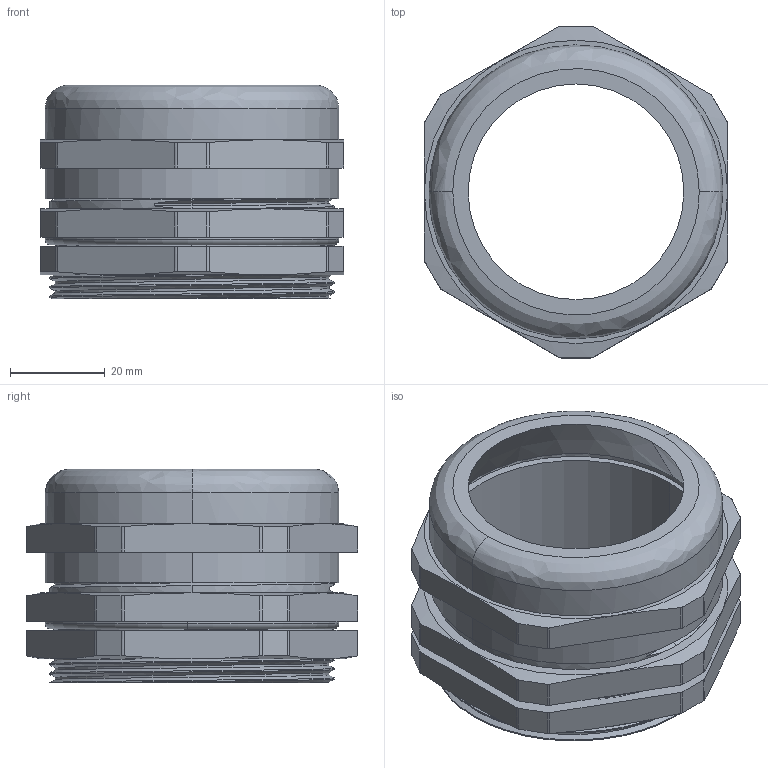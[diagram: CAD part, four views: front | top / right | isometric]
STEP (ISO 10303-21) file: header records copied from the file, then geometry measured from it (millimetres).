
FILE_DESCRIPTION (( 'STEP AP214' ), '1' );
FILE_NAME ('R5BCM60.STEP', '2022-10-11T06:49:50', ( '' ), ( '' ), 'SwSTEP 2.0', 'SolidWorks 2022', '' );
FILE_SCHEMA (( 'AUTOMOTIVE_DESIGN' ));
Length unit declared in the file: millimetre
Products named in the file (5): Корпус_R5BCM60; Уплотнительное кольцо_R5BCM60; Крышка_R5BCM60; Фиксирующая гайка_R5BCM60; R5BCM60
Assembly tree (4 placements, depth 2):
  R5BCM60
    Корпус_R5BCM60
    Уплотнительное кольцо_R5BCM60
    Фиксирующая гайка_R5BCM60
    Крышка_R5BCM60
Bounding box: 64 x 70 x 45.1 mm (x, y, z)
Volume: 34322.1 mm3; surface area: 35481 mm2
Topology: 4 solids, 4 shells, 225 faces, 604 edges, 390 vertices
Faces by surface type: plane 92, cylinder 91, cone 22, bspline 14, torus 6
Entity records: 15677 total; most frequent: CARTESIAN_POINT 10272, ORIENTED_EDGE 1208, DIRECTION 996, EDGE_CURVE 604, VERTEX_POINT 390, AXIS2_PLACEMENT_3D 388, EDGE_LOOP 236, ADVANCED_FACE 225
